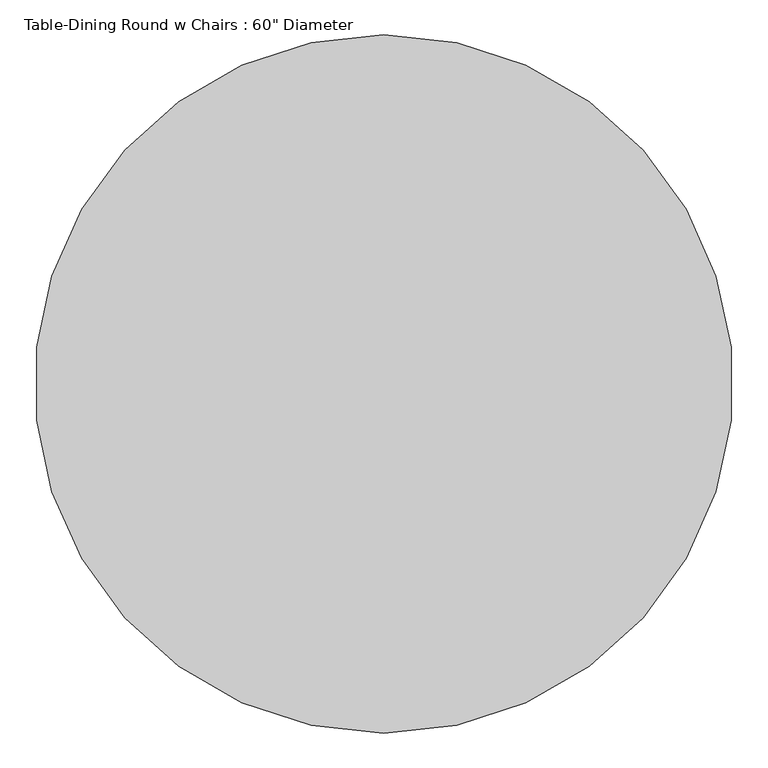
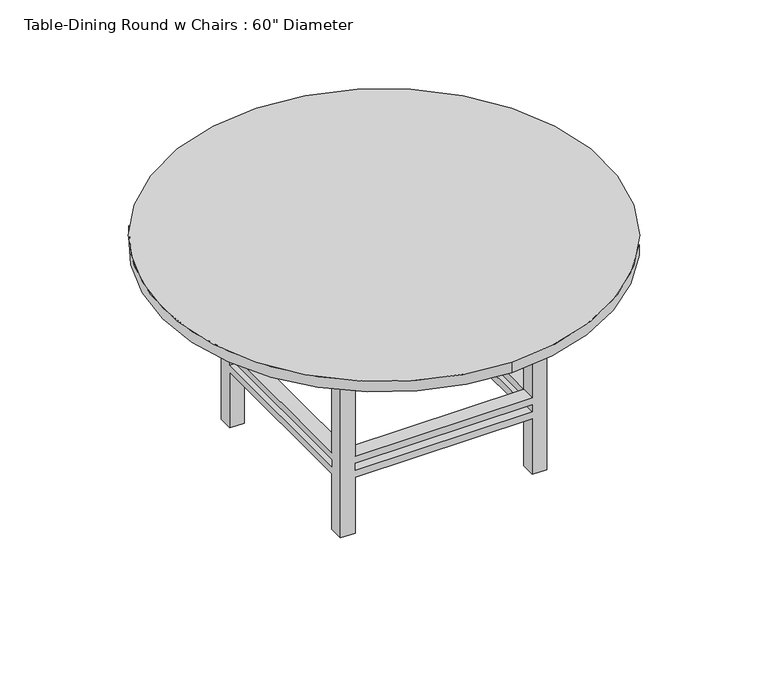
"""IFC4 building model written with IfcOpenShell, lengths in millimetres: furniture geometry."""

from ifc_helpers import new_model, si_unit, point, frame, frame_2d, origin, place, context, project, spatial, polyline, circle_curve, trimmed, segment, composite_curve, outline, extrude, faceted_brep, source, transform, mapped, element, save


def furniture_6c1a5aef(model_context):
    return source(origin(), model_context, "Body", "SolidModel", [
        faceted_brep([(408.4819672, 119.9213115, 279.4), (408.4819672, -489.6786885, 279.4), (459.2819672, -489.6786885, 279.4), (459.2819672, 119.9213115, 279.4), (-201.1180328, -489.6786885, 279.4), (-201.1180328, -540.4786885, 279.4), (408.4819672, -540.4786885, 279.4), (-201.1180328, 119.9213115, 279.4), (-251.9180328, 119.9213115, 279.4), (-251.9180328, -489.6786885, 279.4), (408.4819672, 170.7213115, 279.4), (-201.1180328, 170.7213115, 279.4), (408.4819672, 119.9213115, 254.0), (-201.1180328, 119.9213115, 254.0), (-201.1180328, 170.7213115, 254.0), (408.4819672, 170.7213115, 254.0), (-201.1180328, -489.6786885, 254.0), (-251.9180328, -489.6786885, 254.0), (-251.9180328, 119.9213115, 254.0), (408.4819672, -489.6786885, 254.0), (408.4819672, -540.4786885, 254.0), (-201.1180328, -540.4786885, 254.0), (459.2819672, 119.9213115, 254.0), (459.2819672, -489.6786885, 254.0), (-251.9180328, 170.7213115, 647.7), (-201.1180328, 170.7213115, 647.7), (408.4819672, 170.7213115, 647.7), (459.2819672, 170.7213115, 647.7), (459.2819672, 170.7213115, 0.0), (408.4819672, 170.7213115, 0.0), (408.4819672, 170.7213115, 203.2), (-201.1180328, 170.7213115, 203.2), (-201.1180328, 170.7213115, 0.0), (-251.9180328, 170.7213115, 0.0), (-201.1180328, 170.7213115, 228.6), (408.4819672, 170.7213115, 228.6), (-251.9180328, 119.9213115, 647.7), (-251.9180328, 119.9213115, 0.0), (-251.9180328, 119.9213115, 203.2), (-251.9180328, -489.6786885, 203.2), (-251.9180328, -489.6786885, 0.0), (-251.9180328, -540.4786885, 0.0), (-251.9180328, -540.4786885, 647.7), (-251.9180328, -489.6786885, 647.7), (-251.9180328, -489.6786885, 228.6), (-251.9180328, 119.9213115, 228.6), (459.2819672, -540.4786885, 647.7), (408.4819672, -540.4786885, 647.7), (-201.1180328, -540.4786885, 647.7), (-201.1180328, -540.4786885, 0.0), (-201.1180328, -540.4786885, 203.2), (408.4819672, -540.4786885, 203.2), (408.4819672, -540.4786885, 0.0), (459.2819672, -540.4786885, 0.0), (408.4819672, -540.4786885, 228.6), (-201.1180328, -540.4786885, 228.6), (459.2819672, 119.9213115, 647.7), (459.2819672, -489.6786885, 647.7), (459.2819672, -489.6786885, 0.0), (459.2819672, -489.6786885, 203.2), (459.2819672, 119.9213115, 203.2), (459.2819672, 119.9213115, 0.0), (459.2819672, 119.9213115, 228.6), (459.2819672, -489.6786885, 228.6), (-201.1180328, 119.9213115, 647.7), (408.4819672, 119.9213115, 647.7), (408.4819672, -489.6786885, 647.7), (-201.1180328, -489.6786885, 647.7), (-201.1180328, 119.9213115, 0.0), (408.4819672, 119.9213115, 0.0), (408.4819672, -489.6786885, 0.0), (-201.1180328, -489.6786885, 0.0), (-201.1180328, 119.9213115, 203.2), (-201.1180328, 119.9213115, 228.6), (408.4819672, 119.9213115, 203.2), (408.4819672, 119.9213115, 228.6), (408.4819672, -489.6786885, 203.2), (408.4819672, -489.6786885, 228.6), (-201.1180328, -489.6786885, 203.2), (-201.1180328, -489.6786885, 228.6)], [[[0, 1, 2, 3]], [[1, 4, 5, 6]], [[4, 7, 8, 9]], [[7, 0, 10, 11]], [[12, 13, 14, 15]], [[13, 16, 17, 18]], [[16, 19, 20, 21]], [[19, 12, 22, 23]], [[24, 25, 11, 10, 26, 27, 28, 29, 30, 31, 32, 33], [14, 34, 35, 15]], [[36, 24, 33, 37, 38, 39, 40, 41, 42, 43, 9, 8], [17, 44, 45, 18]], [[46, 47, 6, 5, 48, 42, 41, 49, 50, 51, 52, 53], [20, 54, 55, 21]], [[28, 27, 56, 3, 2, 57, 46, 53, 58, 59, 60, 61], [22, 62, 63, 23]], [[1, 0, 12, 19]], [[4, 1, 19, 16]], [[7, 4, 16, 13]], [[0, 7, 13, 12]], [[25, 24, 36, 64]], [[26, 65, 56, 27]], [[47, 46, 57, 66]], [[48, 67, 43, 42]], [[32, 68, 37, 33]], [[29, 28, 61, 69]], [[52, 70, 58, 53]], [[49, 41, 40, 71]], [[64, 36, 8, 7]], [[37, 68, 72, 38]], [[13, 18, 45, 73]], [[25, 64, 7, 11]], [[68, 32, 31, 72]], [[14, 13, 73, 34]], [[65, 26, 10, 0]], [[29, 69, 74, 30]], [[12, 15, 35, 75]], [[56, 65, 0, 3]], [[69, 61, 60, 74]], [[22, 12, 75, 62]], [[66, 57, 2, 1]], [[58, 70, 76, 59]], [[19, 23, 63, 77]], [[47, 66, 1, 6]], [[70, 52, 51, 76]], [[20, 19, 77, 54]], [[67, 48, 5, 4]], [[49, 71, 78, 50]], [[16, 21, 55, 79]], [[43, 67, 4, 9]], [[71, 40, 39, 78]], [[17, 16, 79, 44]], [[75, 77, 63, 62]], [[77, 79, 55, 54]], [[79, 73, 45, 44]], [[73, 75, 35, 34]], [[74, 72, 31, 30]], [[72, 78, 39, 38]], [[78, 76, 51, 50]], [[76, 74, 60, 59]], [[77, 75, 74, 76]], [[79, 77, 76, 78]], [[73, 79, 78, 72]], [[75, 73, 72, 74]]]),
        extrude(outline(polyline([(484.6819672, 196.1213115), (484.6819672, -565.8786885), (-277.3180328, -565.8786885), (-277.3180328, 196.1213115), (484.6819672, 196.1213115)]), holes=[polyline([(459.2819672, 170.7213115), (-251.9180328, 170.7213115), (-251.9180328, -540.4786885), (459.2819672, -540.4786885), (459.2819672, 170.7213115)])]), frame((0.0, 0.0, 647.7), z_axis=(0.0, 0.0, 1.0), x_axis=(1.0, 0.0, 0.0)), (0.0, 0.0, 1.0), 76.2),
        extrude(outline(composite_curve([segment(trimmed(circle_curve(frame_2d((103.6819672, -184.8786885)), 762.0), [point((103.6819672, -946.8786885))], [point((103.6819672, 577.1213115))], False, "CARTESIAN"), True, "CONTINUOUS"), segment(trimmed(circle_curve(frame_2d((103.6819672, -184.8786885)), 762.0), [point((103.6819672, 577.1213115))], [point((103.6819672, -946.8786885))], False, "CARTESIAN"), True, "CONTINUOUS")], self_intersect=False)), frame((0.0, 0.0, 723.9), z_axis=(0.0, 0.0, 1.0), x_axis=(1.0, 0.0, 0.0)), (0.0, 0.0, 1.0), 38.1),
    ])


if __name__ == "__main__":
    model = new_model("IFC4")
    model_context = context("Model", 3, world=origin())
    ifc_project = project(units=[si_unit("LENGTHUNIT", "METRE", prefix="MILLI")], contexts=[model_context])
    site = spatial("IfcSite", under=ifc_project)
    building = spatial("IfcBuilding", under=site)
    placement = place(None, origin())
    furniture_shape = furniture_6c1a5aef(model_context)
    element("IfcFurniture", 1, ObjectType="Table-Dining Round w Chairs : 60\" Diameter", at=placement, inside=building, context=model_context, shape_type="MappedRepresentation", body=[
        mapped(furniture_shape, transform((0.0, 0.0, 0.0), x_axis=(1.0, 0.0, 0.0), y_axis=(0.0, 1.0, 0.0), z_axis=(0.0, 0.0, 1.0))),
    ])
    save(model, "model.ifc")
